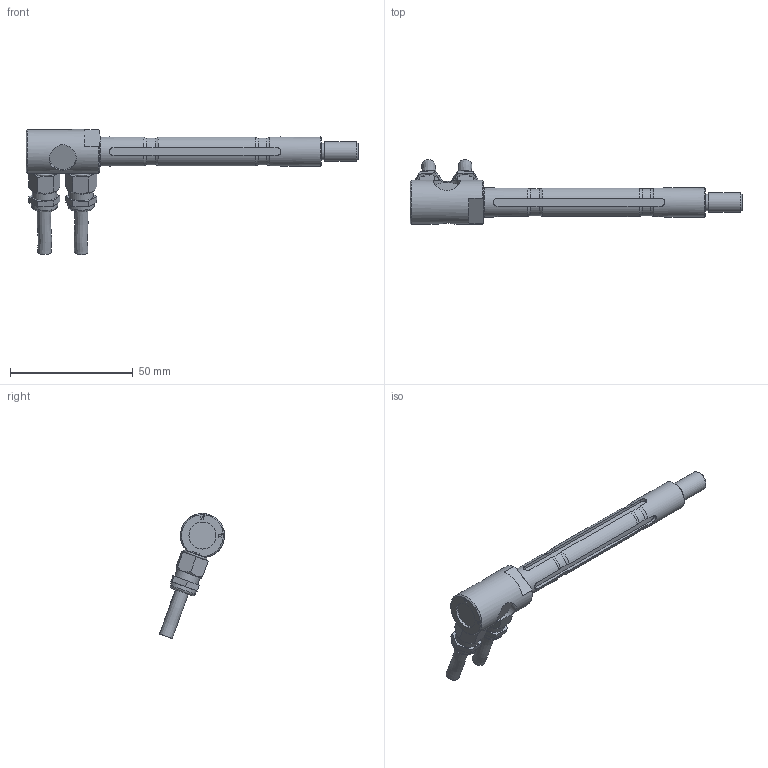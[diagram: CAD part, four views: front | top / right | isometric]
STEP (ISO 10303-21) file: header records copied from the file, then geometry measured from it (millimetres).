
FILE_DESCRIPTION(/* description */ ('Alibre Inc.'),/* implementation_level */ '2;1');
FILE_NAME(/* name */ 'export-F9279798-0EE1-4634-A917-EB56DF7A6265',/* time_stamp */ '2022-04-29T08:23:52+02:00',/* author */ (''),/* organization */ (''),/* preprocessor_version */ 'ST-DEVELOPER v17',/* originating_system */ 'Alibre',/* authorisation */ '');
FILE_SCHEMA (('CONFIG_CONTROL_DESIGN'));
Length unit declared in the file: millimetre
Bounding box: 135.5 x 26.54 x 51.03 mm (x, y, z)
Volume: 18627 mm3; surface area: 11156.7 mm2
Topology: 7 solids, 7 shells, 390 faces, 1018 edges, 674 vertices
Faces by surface type: plane 211, bspline 94, cylinder 48, torus 25, cone 12
Full cylindrical faces by diameter (mm): 4 x1, 5.5 x2, 6.8 x1, 7.5 x2, 8 x3, 10 x2, 10.8 x2, 11 x3, 12 x2
Entity records: 11778 total; most frequent: CARTESIAN_POINT 3443, ORIENTED_EDGE 1840, DIRECTION 1018, EDGE_CURVE 920, VERTEX_POINT 627, VECTOR 573, LINE 573, FACE_BOUND 419
